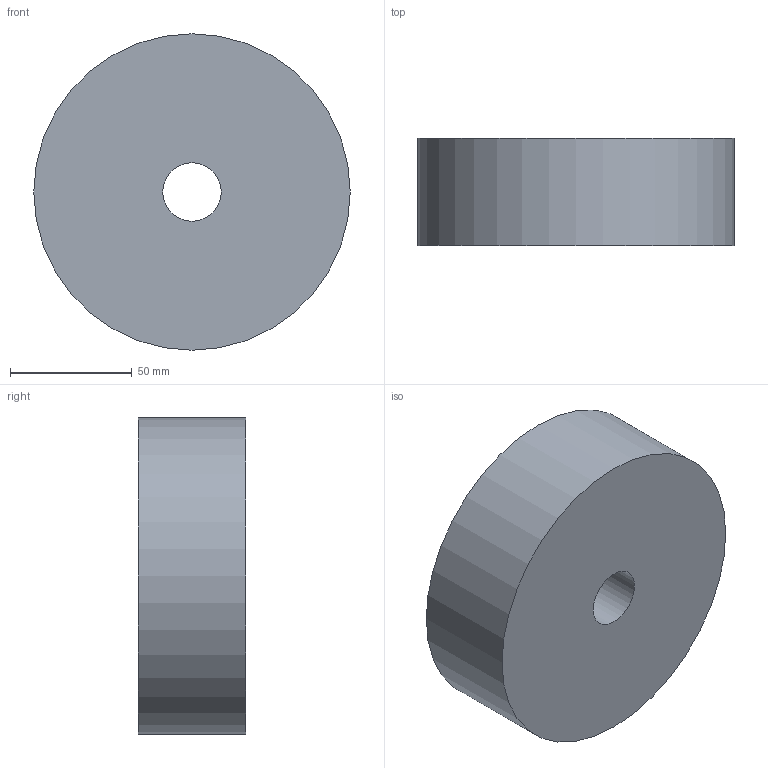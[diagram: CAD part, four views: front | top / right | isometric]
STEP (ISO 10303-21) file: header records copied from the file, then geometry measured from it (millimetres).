
FILE_DESCRIPTION(('Open CASCADE Model'),'2;1');
FILE_NAME('Open CASCADE Shape Model','2026-10-04T01:02:30',('Author'),( 'Open CASCADE'),'Open CASCADE STEP processor 8.0','Open CASCADE 8.0' ,'Unknown');
FILE_SCHEMA(('AUTOMOTIVE_DESIGN { 1 0 10303 214 1 1 1 1 }'));
Length unit declared in the file: millimetre
Products named in the file (1): Open CASCADE STEP translator 8.0 220
Bounding box: 130 x 44 x 130 mm (x, y, z)
Volume: 564116.9 mm3; surface area: 46929.1 mm2
Topology: 1 solids, 1 shells, 4 faces, 6 edges, 4 vertices
Faces by surface type: cylinder 2, plane 2
Full cylindrical faces by diameter (mm): 24 x1, 130 x1
Entity records: 186 total; most frequent: DIRECTION 32, CARTESIAN_POINT 27, ORIENTED_EDGE 12, PCURVE 12, DEFINITIONAL_REPRESENTATION 12, LINE 10, VECTOR 10, AXIS2_PLACEMENT_3D 9
